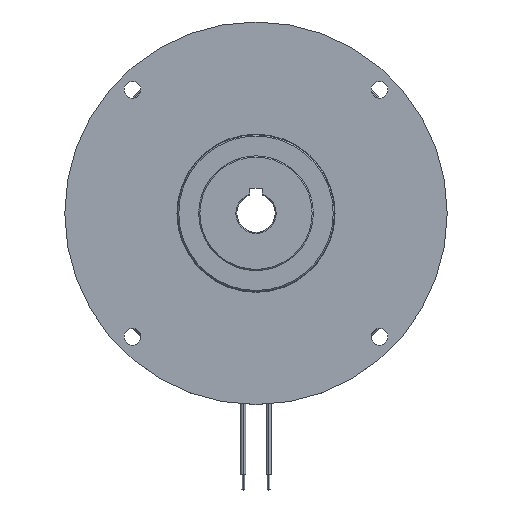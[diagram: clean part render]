
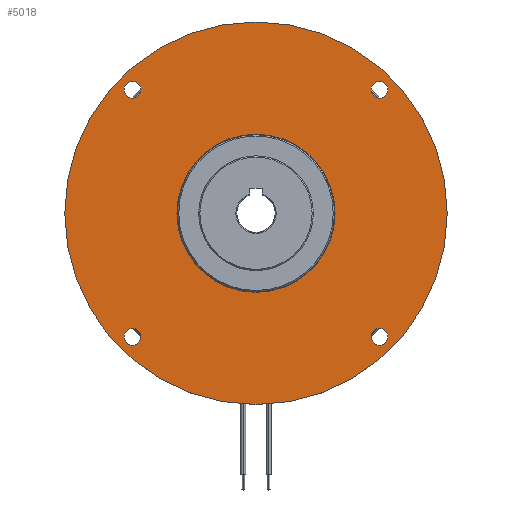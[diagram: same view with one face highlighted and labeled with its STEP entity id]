
A CAD part, top view. The second image highlights one B-rep face of the part: STEP entity #5018.
In plain terms, the highlighted planar face has unit normal (0, 0, 1).
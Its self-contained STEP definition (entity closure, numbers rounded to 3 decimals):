
#109 = EDGE_LOOP ( 'NONE', ( #2861, #2380 ) ) ;
#206 = EDGE_CURVE ( 'NONE', #6896, #7223, #3292, .T. ) ;
#251 = CARTESIAN_POINT ( 'NONE',  ( -31., 0., 0. ) ) ;
#315 = AXIS2_PLACEMENT_3D ( 'NONE', #6381, #1721, #6950 ) ;
#423 = CARTESIAN_POINT ( 'NONE',  ( -48.437, 48.437, 0. ) ) ;
#478 = CIRCLE ( 'NONE', #3145, 3.3 ) ;
#583 = EDGE_LOOP ( 'NONE', ( #6113, #6857 ) ) ;
#669 = FACE_BOUND ( 'NONE', #8418, .T. ) ;
#797 = EDGE_CURVE ( 'NONE', #7390, #6188, #8354, .T. ) ;
#800 = ORIENTED_EDGE ( 'NONE', *, *, #5990, .T. ) ;
#829 = CARTESIAN_POINT ( 'NONE',  ( -48.437, -48.437, 0. ) ) ;
#880 = EDGE_CURVE ( 'NONE', #6188, #7390, #7946, .T. ) ;
#1101 = ORIENTED_EDGE ( 'NONE', *, *, #797, .T. ) ;
#1577 = CARTESIAN_POINT ( 'NONE',  ( -48.437, -48.437, 0. ) ) ;
#1716 = DIRECTION ( 'NONE',  ( 0., 0., -1. ) ) ;
#1721 = DIRECTION ( 'NONE',  ( 0., 0., -1. ) ) ;
#1757 = CIRCLE ( 'NONE', #6668, 75. ) ;
#1841 = ORIENTED_EDGE ( 'NONE', *, *, #6386, .T. ) ;
#1928 = CIRCLE ( 'NONE', #7385, 3.3 ) ;
#1971 = EDGE_CURVE ( 'NONE', #3693, #6058, #1757, .T. ) ;
#2073 = VERTEX_POINT ( 'NONE', #5702 ) ;
#2186 = DIRECTION ( 'NONE',  ( -1., 0., 0. ) ) ;
#2286 = EDGE_CURVE ( 'NONE', #6001, #7410, #7363, .T. ) ;
#2295 = EDGE_LOOP ( 'NONE', ( #800, #5817 ) ) ;
#2380 = ORIENTED_EDGE ( 'NONE', *, *, #1971, .F. ) ;
#2423 = CIRCLE ( 'NONE', #8626, 75. ) ;
#2451 = EDGE_LOOP ( 'NONE', ( #1101, #7328 ) ) ;
#2503 = FACE_BOUND ( 'NONE', #3951, .T. ) ;
#2646 = EDGE_CURVE ( 'NONE', #7410, #6001, #6691, .T. ) ;
#2760 = ORIENTED_EDGE ( 'NONE', *, *, #4089, .T. ) ;
#2844 = DIRECTION ( 'NONE',  ( -1., 0., 0. ) ) ;
#2861 = ORIENTED_EDGE ( 'NONE', *, *, #6004, .F. ) ;
#3023 = DIRECTION ( 'NONE',  ( 0., 0., -1. ) ) ;
#3092 = CIRCLE ( 'NONE', #7578, 3.3 ) ;
#3141 = DIRECTION ( 'NONE',  ( 0., 0., -1. ) ) ;
#3145 = AXIS2_PLACEMENT_3D ( 'NONE', #3747, #3141, #3827 ) ;
#3288 = AXIS2_PLACEMENT_3D ( 'NONE', #7370, #8043, #3370 ) ;
#3292 = CIRCLE ( 'NONE', #8222, 3.3 ) ;
#3370 = DIRECTION ( 'NONE',  ( -1., 0., 0. ) ) ;
#3564 = ORIENTED_EDGE ( 'NONE', *, *, #6108, .T. ) ;
#3639 = DIRECTION ( 'NONE',  ( 0., 0., -1. ) ) ;
#3674 = EDGE_CURVE ( 'NONE', #2073, #5009, #1928, .T. ) ;
#3693 = VERTEX_POINT ( 'NONE', #6352 ) ;
#3696 = AXIS2_PLACEMENT_3D ( 'NONE', #5942, #8639, #6697 ) ;
#3747 = CARTESIAN_POINT ( 'NONE',  ( 48.437, -48.437, 0. ) ) ;
#3827 = DIRECTION ( 'NONE',  ( -1., 0., 0. ) ) ;
#3911 = FACE_BOUND ( 'NONE', #583, .T. ) ;
#3951 = EDGE_LOOP ( 'NONE', ( #6553, #2760 ) ) ;
#4086 = DIRECTION ( 'NONE',  ( -1., 0., 0. ) ) ;
#4088 = CIRCLE ( 'NONE', #315, 3.3 ) ;
#4089 = EDGE_CURVE ( 'NONE', #7223, #6896, #3092, .T. ) ;
#4117 = AXIS2_PLACEMENT_3D ( 'NONE', #6547, #4544, #7245 ) ;
#4267 = CARTESIAN_POINT ( 'NONE',  ( 45.137, 48.437, 0. ) ) ;
#4283 = VERTEX_POINT ( 'NONE', #8675 ) ;
#4290 = DIRECTION ( 'NONE',  ( -1., 0., 0. ) ) ;
#4336 = DIRECTION ( 'NONE',  ( 0., 0., -1. ) ) ;
#4400 = CARTESIAN_POINT ( 'NONE',  ( -51.737, -48.437, 0. ) ) ;
#4544 = DIRECTION ( 'NONE',  ( 0., 0., -1. ) ) ;
#4721 = CARTESIAN_POINT ( 'NONE',  ( -45.137, -48.437, 0. ) ) ;
#4790 = CARTESIAN_POINT ( 'NONE',  ( 0., 0., 0. ) ) ;
#4820 = AXIS2_PLACEMENT_3D ( 'NONE', #5132, #3023, #5084 ) ;
#4886 = DIRECTION ( 'NONE',  ( 0., 0., -1. ) ) ;
#4915 = DIRECTION ( 'NONE',  ( -1., 0., 0. ) ) ;
#4929 = CARTESIAN_POINT ( 'NONE',  ( -48.437, 48.437, 0. ) ) ;
#4994 = DIRECTION ( 'NONE',  ( 0., 0., -1. ) ) ;
#5009 = VERTEX_POINT ( 'NONE', #8031 ) ;
#5018 = ADVANCED_FACE ( 'NONE', ( #3911, #669, #2503, #6657, #7896, #5203 ), #7352, .F. ) ;
#5084 = DIRECTION ( 'NONE',  ( -1., 0., 0. ) ) ;
#5116 = CARTESIAN_POINT ( 'NONE',  ( -75., 0., 0. ) ) ;
#5132 = CARTESIAN_POINT ( 'NONE',  ( 0., 0., 0. ) ) ;
#5203 = FACE_BOUND ( 'NONE', #2451, .T. ) ;
#5374 = CIRCLE ( 'NONE', #6213, 3.3 ) ;
#5702 = CARTESIAN_POINT ( 'NONE',  ( -45.137, 48.437, 0. ) ) ;
#5817 = ORIENTED_EDGE ( 'NONE', *, *, #3674, .T. ) ;
#5942 = CARTESIAN_POINT ( 'NONE',  ( 0., 75., 0. ) ) ;
#5990 = EDGE_CURVE ( 'NONE', #5009, #2073, #5374, .T. ) ;
#6001 = VERTEX_POINT ( 'NONE', #4267 ) ;
#6004 = EDGE_CURVE ( 'NONE', #6058, #3693, #2423, .T. ) ;
#6058 = VERTEX_POINT ( 'NONE', #5116 ) ;
#6108 = EDGE_CURVE ( 'NONE', #4283, #7940, #478, .T. ) ;
#6113 = ORIENTED_EDGE ( 'NONE', *, *, #2286, .T. ) ;
#6188 = VERTEX_POINT ( 'NONE', #7354 ) ;
#6213 = AXIS2_PLACEMENT_3D ( 'NONE', #4929, #4886, #7624 ) ;
#6352 = CARTESIAN_POINT ( 'NONE',  ( 75., 0., 0. ) ) ;
#6362 = CARTESIAN_POINT ( 'NONE',  ( 0., 0., 0. ) ) ;
#6381 = CARTESIAN_POINT ( 'NONE',  ( 48.437, -48.437, 0. ) ) ;
#6386 = EDGE_CURVE ( 'NONE', #7940, #4283, #4088, .T. ) ;
#6547 = CARTESIAN_POINT ( 'NONE',  ( 0., 0., 0. ) ) ;
#6553 = ORIENTED_EDGE ( 'NONE', *, *, #206, .T. ) ;
#6657 = FACE_BOUND ( 'NONE', #2295, .T. ) ;
#6668 = AXIS2_PLACEMENT_3D ( 'NONE', #6362, #4994, #2186 ) ;
#6691 = CIRCLE ( 'NONE', #6819, 3.3 ) ;
#6697 = DIRECTION ( 'NONE',  ( -1., 0., 0. ) ) ;
#6819 = AXIS2_PLACEMENT_3D ( 'NONE', #8417, #1716, #4915 ) ;
#6846 = DIRECTION ( 'NONE',  ( -1., 0., 0. ) ) ;
#6857 = ORIENTED_EDGE ( 'NONE', *, *, #2646, .T. ) ;
#6883 = DIRECTION ( 'NONE',  ( 0., 0., -1. ) ) ;
#6896 = VERTEX_POINT ( 'NONE', #4400 ) ;
#6950 = DIRECTION ( 'NONE',  ( -1., 0., 0. ) ) ;
#7223 = VERTEX_POINT ( 'NONE', #4721 ) ;
#7245 = DIRECTION ( 'NONE',  ( -1., 0., 0. ) ) ;
#7328 = ORIENTED_EDGE ( 'NONE', *, *, #880, .T. ) ;
#7352 = PLANE ( 'NONE',  #3696 ) ;
#7354 = CARTESIAN_POINT ( 'NONE',  ( 31., 0., 0. ) ) ;
#7363 = CIRCLE ( 'NONE', #3288, 3.3 ) ;
#7370 = CARTESIAN_POINT ( 'NONE',  ( 48.437, 48.437, 0. ) ) ;
#7385 = AXIS2_PLACEMENT_3D ( 'NONE', #423, #6883, #6846 ) ;
#7390 = VERTEX_POINT ( 'NONE', #251 ) ;
#7410 = VERTEX_POINT ( 'NONE', #8225 ) ;
#7488 = DIRECTION ( 'NONE',  ( 0., 0., -1. ) ) ;
#7578 = AXIS2_PLACEMENT_3D ( 'NONE', #1577, #3639, #4290 ) ;
#7624 = DIRECTION ( 'NONE',  ( -1., 0., 0. ) ) ;
#7767 = CARTESIAN_POINT ( 'NONE',  ( 45.137, -48.437, 0. ) ) ;
#7896 = FACE_OUTER_BOUND ( 'NONE', #109, .T. ) ;
#7940 = VERTEX_POINT ( 'NONE', #7767 ) ;
#7946 = CIRCLE ( 'NONE', #4117, 31. ) ;
#8031 = CARTESIAN_POINT ( 'NONE',  ( -51.737, 48.437, 0. ) ) ;
#8043 = DIRECTION ( 'NONE',  ( 0., 0., -1. ) ) ;
#8222 = AXIS2_PLACEMENT_3D ( 'NONE', #829, #4336, #2844 ) ;
#8225 = CARTESIAN_POINT ( 'NONE',  ( 51.737, 48.437, 0. ) ) ;
#8354 = CIRCLE ( 'NONE', #4820, 31. ) ;
#8417 = CARTESIAN_POINT ( 'NONE',  ( 48.437, 48.437, 0. ) ) ;
#8418 = EDGE_LOOP ( 'NONE', ( #1841, #3564 ) ) ;
#8626 = AXIS2_PLACEMENT_3D ( 'NONE', #4790, #7488, #4086 ) ;
#8639 = DIRECTION ( 'NONE',  ( 0., 0., -1. ) ) ;
#8675 = CARTESIAN_POINT ( 'NONE',  ( 51.737, -48.437, 0. ) ) ;
